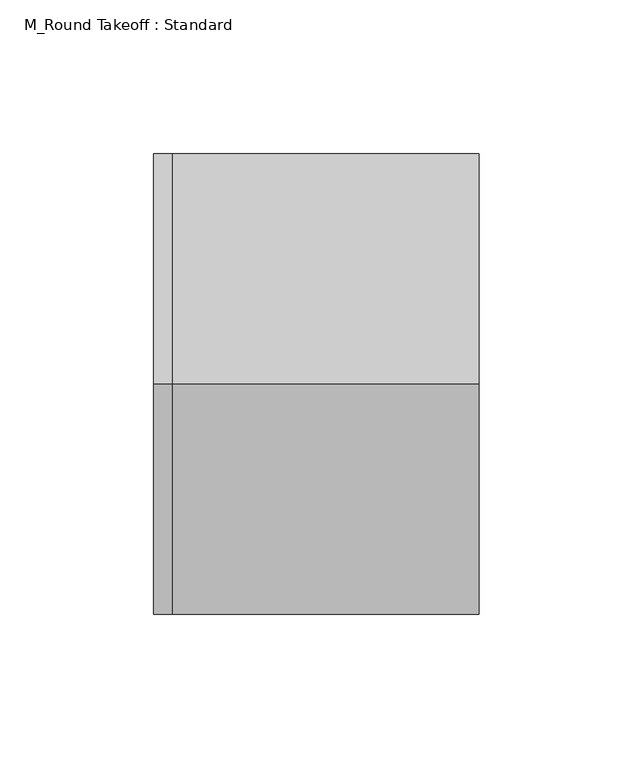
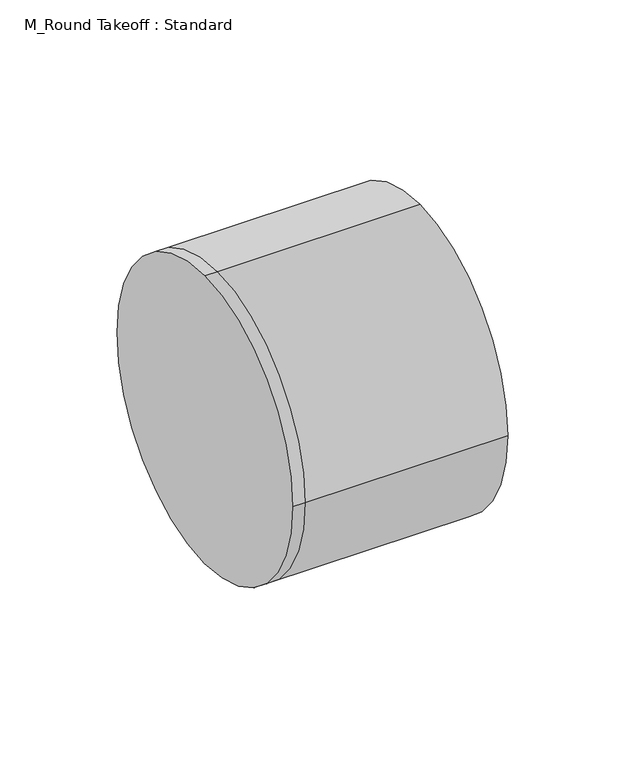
"""IFC4 building model written with IfcOpenShell, lengths in millimetres: duct fitting geometry, M_Round Takeoff : Standard."""

import ifcopenshell
import ifcopenshell.guid

model = None  # the IFC model being written
_history = None  # IfcOwnerHistory: only IFC2X3 demands one
_inside = {}  # id of a spatial element -> (the spatial element, [elements in it])
_under = {}  # id of a project, library or spatial element -> (it, [spatial elements below it])
_declared = {}  # id of a project -> (the project, [libraries it declares])
_typed = {}  # id of a type object -> (the type object, [elements of that type])
_made_of = {}  # id of a material, layer set ... -> (it, [elements and type objects made of it])


def new_model(schema):
    """Start an empty IFC model of exactly this schema.

    Asked for "IFC4X3", IfcOpenShell would pick the latest addendum, in which some entities
    have other attributes; the version numbers below select the first issue.
    IFC2X3 requires an IfcOwnerHistory on every rooted entity: one is made here for all.
    """
    global model, _history
    if schema == "IFC4X3":
        model = ifcopenshell.file(schema_version=(4, 3, 0, 0))
    else:
        model = ifcopenshell.file(schema=schema)
    _inside.clear()
    _under.clear()
    _declared.clear()
    _typed.clear()
    _made_of.clear()
    _history = None
    if model.schema == "IFC2X3":
        org = make("IfcOrganization", Name="unknown")
        user = make(
            "IfcPersonAndOrganization",
            ThePerson=make("IfcPerson", FamilyName="unknown"),
            TheOrganization=org,
        )
        app = make(
            "IfcApplication",
            ApplicationDeveloper=org,
            Version="unknown",
            ApplicationFullName="unknown",
            ApplicationIdentifier="unknown",
        )
        _history = make(
            "IfcOwnerHistory",
            OwningUser=user,
            OwningApplication=app,
            ChangeAction="ADDED",
            CreationDate=0,
        )
    return model


def make(cls, **values):
    """One entity of the class cls with the attributes given. An attribute that is None is left unset."""
    return model.create_entity(
        cls, **{name: value for name, value in values.items() if value is not None}
    )


def rooted(cls, **values):
    """An entity with a GlobalId (a new one), such as an element, a storey or a relation."""
    return make(cls, GlobalId=ifcopenshell.guid.new(), OwnerHistory=_history, **values)


def si_unit(unit_type, name, prefix=None):
    """IfcSIUnit, for example si_unit("LENGTHUNIT", "METRE", prefix="MILLI")."""
    return make("IfcSIUnit", UnitType=unit_type, Prefix=prefix, Name=name)


def assignment(units):
    """IfcUnitAssignment: the units of a project."""
    return None if units is None else make("IfcUnitAssignment", Units=units)


def point(xyz):
    """IfcCartesianPoint."""
    return None if xyz is None else make("IfcCartesianPoint", Coordinates=xyz)


def direction(xyz):
    """IfcDirection."""
    return None if xyz is None else make("IfcDirection", DirectionRatios=xyz)


def frame(location, z_axis=None, x_axis=None):
    """IfcAxis2Placement3D, a coordinate frame: its origin and axes. An axis left out is left unset."""
    return make(
        "IfcAxis2Placement3D",
        Location=point(location),
        Axis=direction(z_axis),
        RefDirection=direction(x_axis),
    )


def origin():
    """The frame at (0, 0, 0) with its axes left unset."""
    return frame((0.0, 0.0, 0.0))


def place(relative_to, where):
    """IfcLocalPlacement: puts the frame where relative to a parent placement (None: the world)."""
    return make(
        "IfcLocalPlacement", PlacementRelTo=relative_to, RelativePlacement=where
    )


def context(
    kind, dimensions, precision=None, world=None, true_north=None, identifier=None
):
    """IfcGeometricRepresentationContext, for example the 3D "Model" context."""
    return make(
        "IfcGeometricRepresentationContext",
        ContextIdentifier=identifier,
        ContextType=kind,
        CoordinateSpaceDimension=dimensions,
        Precision=precision,
        WorldCoordinateSystem=world,
        TrueNorth=true_north,
    )


def project(units=None, contexts=None):
    """IfcProject with its units and contexts."""
    return rooted(
        "IfcProject",
        Name="project",
        RepresentationContexts=contexts,
        UnitsInContext=assignment(units),
    )


def spatial(cls, under=None, at=None, **own):
    """A site, building, storey or space (cls), placed at a placement, below another one or the project."""
    s = rooted(cls, ObjectPlacement=at, **own)
    if under is not None:
        _under.setdefault(under.id(), (under, []))[1].append(s)
    return s


def circle_curve(where, radius):
    """IfcCircle in the frame where."""
    return make("IfcCircle", Position=where, Radius=radius)


def shape(context_of_items, identifier, shape_type, items):
    """IfcShapeRepresentation: the items that make up one representation, for example the "Body"."""
    return make(
        "IfcShapeRepresentation",
        ContextOfItems=context_of_items,
        RepresentationIdentifier=identifier,
        RepresentationType=shape_type,
        Items=items,
    )


def source(mapping_origin, context_of_items, identifier, shape_type, items):
    """IfcRepresentationMap: a shape defined once, which mapped items show again and again."""
    return make(
        "IfcRepresentationMap",
        MappingOrigin=mapping_origin,
        MappedRepresentation=shape(context_of_items, identifier, shape_type, items),
    )


def transform(
    local_origin,
    x_axis=None,
    y_axis=None,
    z_axis=None,
    scale=None,
    scale2=None,
    scale3=None,
    uniform=True,
):
    """IfcCartesianTransformationOperator3D, or its non-uniform kind. x_axis, y_axis, z_axis: its Axis1, 2, 3."""
    if uniform:
        return make(
            "IfcCartesianTransformationOperator3D",
            Axis1=direction(x_axis),
            Axis2=direction(y_axis),
            LocalOrigin=point(local_origin),
            Scale=scale,
            Axis3=direction(z_axis),
        )
    return make(
        "IfcCartesianTransformationOperator3DnonUniform",
        Axis1=direction(x_axis),
        Axis2=direction(y_axis),
        LocalOrigin=point(local_origin),
        Scale=scale,
        Axis3=direction(z_axis),
        Scale2=scale2,
        Scale3=scale3,
    )


def mapped(mapping_source, mapping_target):
    """IfcMappedItem: shows the shape of a source again, moved by a transform."""
    return make(
        "IfcMappedItem", MappingSource=mapping_source, MappingTarget=mapping_target
    )


def made_of(thing, what):
    """Note that an element or type object is made of a material, layer set ...; save() writes the relation."""
    if what is not None:
        _made_of.setdefault(what.id(), (what, []))[1].append(thing)
    return thing


def element(
    cls,
    number,
    at=None,
    inside=None,
    cuts=None,
    type_object=None,
    material=None,
    context=None,
    identifier="Body",
    shape_type=None,
    held_by="IfcProductDefinitionShape",
    body=None,
    shapes=None,
    **own,
):
    """One element of the class cls, such as IfcWall. Its Tag is "e" and its number.

    at: its placement. inside: the storey or other place that contains it. cuts: it is an
    opening in that element (IfcRelVoidsElement). A single representation is given by context,
    identifier, shape_type and body (its items); several are given by shapes. held_by: the class
    of the entity that holds the representations. save() writes the other relations.
    """
    e = rooted(cls, Tag="e%d" % number, ObjectPlacement=at, **own)
    if body is not None:
        shapes = [shape(context, identifier, shape_type, body)]
    if shapes is not None:
        e.Representation = make(held_by, Representations=shapes)
    if inside is not None:
        _inside.setdefault(inside.id(), (inside, []))[1].append(e)
    if cuts is not None:
        rooted(
            "IfcRelVoidsElement", RelatingBuildingElement=cuts, RelatedOpeningElement=e
        )
    if type_object is not None:
        _typed.setdefault(type_object.id(), (type_object, []))[1].append(e)
    return made_of(e, material)


def aggregate(whole, parts):
    """IfcRelAggregates: a whole, such as a stair, and the parts it consists of."""
    return rooted("IfcRelAggregates", RelatingObject=whole, RelatedObjects=parts)


def save(model, path):
    """Write the relations noted so far, then the file.

    IfcRelAggregates (storeys below a building ...), IfcRelContainedInSpatialStructure (elements
    in a storey), IfcRelDefinesByType, IfcRelAssociatesMaterial and IfcRelDeclares: one each for
    every whole, place, type object, material and project.
    """
    for whole, parts in _under.values():
        aggregate(whole, parts)
    for where, things in _inside.values():
        rooted(
            "IfcRelContainedInSpatialStructure",
            RelatedElements=things,
            RelatingStructure=where,
        )
    for kind, things in _typed.values():
        rooted("IfcRelDefinesByType", RelatedObjects=things, RelatingType=kind)
    for what, things in _made_of.values():
        rooted("IfcRelAssociatesMaterial", RelatedObjects=things, RelatingMaterial=what)
    for by, libraries in _declared.values():
        rooted("IfcRelDeclares", RelatingContext=by, RelatedDefinitions=libraries)
    model.write(path)


def plane_surface(at):
    """IfcPlane: the flat surface through the origin of the frame at, square to its z axis."""
    return make("IfcPlane", Position=at)


def cylinder_surface(at, radius):
    """IfcCylindricalSurface: all points at the distance radius from the z axis of the frame at."""
    return make("IfcCylindricalSurface", Position=at, Radius=radius)


def advanced_brep(points, edges, surfaces, faces):
    """IfcAdvancedBrep: a solid bounded by faces that lie on surfaces and meet in shared edges.

    An edge is (start, end): straight between two places in points (the first is 0);
    or (start, end, curve); or (start, end, curve, False) where it runs against its curve.
    A face is (place in surfaces, loops), or (place, loops, False) where it looks against
    its surface's normal. A loop lists edges by number (the first is 1), with a minus sign
    where the edge is run from its end to its start. The first loop is the outer one.
    """
    corners = [point(p) for p in points]
    vertices = [make("IfcVertexPoint", VertexGeometry=c) for c in corners]
    made = []
    for start, end, *more in edges:
        made.append(
            make(
                "IfcEdgeCurve",
                EdgeStart=vertices[start],
                EdgeEnd=vertices[end],
                EdgeGeometry=more[0] if more else make("IfcPolyline", Points=[corners[start], corners[end]]),
                SameSense=more[1] if len(more) > 1 else True,
            )
        )
    hull = []
    for where, loops, *sense in faces:
        bounds = []
        for j, loop in enumerate(loops):
            ring = [make("IfcOrientedEdge", EdgeElement=made[abs(k) - 1], Orientation=k > 0) for k in loop]
            bounds.append(
                make(
                    "IfcFaceOuterBound" if j == 0 else "IfcFaceBound",
                    Bound=make("IfcEdgeLoop", EdgeList=ring),
                    Orientation=True,
                )
            )
        hull.append(make("IfcAdvancedFace", Bounds=bounds, FaceSurface=surfaces[where], SameSense=sense[0] if sense else True))
    return make("IfcAdvancedBrep", Outer=make("IfcClosedShell", CfsFaces=hull))


def m_round_takeoff_standard_b6d2ed4a(model_context):
    return source(origin(), model_context, "Body", "AdvancedBrep", [
        advanced_brep(
        [(-6.0976542, 0.0, 75.0), (-6.0976542, 75.0, 0.0), (-6.0976542, 0.0, -75.0), (-6.0976542, -75.0, 0.0), (0.0, 0.0, 75.0), (0.0, 75.0, 0.0), (0.0, 0.0, -75.0), (0.0, -75.0, 0.0), (100.0016542, 0.0, 75.0), (100.0016542, -75.0, 0.0), (100.0016542, 0.0, -75.0), (100.0016542, 75.0, 0.0)],
        [
            (0, 1, circle_curve(frame((-6.0976542, 0.0, 0.0), z_axis=(-1.0, 0.0, 0.0), x_axis=(0.0, 1.0, 0.0)), 75.0)),
            (1, 2, circle_curve(frame((-6.0976542, 0.0, 0.0), z_axis=(-1.0, 0.0, 0.0), x_axis=(0.0, 1.0, 0.0)), 75.0)),
            (2, 3, circle_curve(frame((-6.0976542, 0.0, 0.0), z_axis=(-1.0, 0.0, 0.0), x_axis=(0.0, 1.0, 0.0)), 75.0)),
            (3, 0, circle_curve(frame((-6.0976542, 0.0, 0.0), z_axis=(-1.0, 0.0, 0.0), x_axis=(0.0, 1.0, 0.0)), 75.0)),
            (0, 4),
            (4, 5, circle_curve(frame((0.0, 0.0, 0.0), z_axis=(-1.0, 0.0, 0.0), x_axis=(0.0, 1.0, 0.0)), 75.0)),
            (5, 1),
            (5, 6, circle_curve(frame((0.0, 0.0, 0.0), z_axis=(-1.0, 0.0, 0.0), x_axis=(0.0, 1.0, 0.0)), 75.0)),
            (6, 2),
            (6, 7, circle_curve(frame((0.0, 0.0, 0.0), z_axis=(-1.0, 0.0, 0.0), x_axis=(0.0, 1.0, 0.0)), 75.0)),
            (7, 3),
            (7, 4, circle_curve(frame((0.0, 0.0, 0.0), z_axis=(-1.0, 0.0, 0.0), x_axis=(0.0, 1.0, 0.0)), 75.0)),
            (8, 9, circle_curve(frame((100.0016542, 0.0, 0.0), z_axis=(1.0, 0.0, 0.0), x_axis=(0.0, 1.0, 0.0)), 75.0)),
            (9, 10, circle_curve(frame((100.0016542, 0.0, 0.0), z_axis=(1.0, 0.0, 0.0), x_axis=(0.0, 1.0, 0.0)), 75.0)),
            (10, 11, circle_curve(frame((100.0016542, 0.0, 0.0), z_axis=(1.0, 0.0, 0.0), x_axis=(0.0, 1.0, 0.0)), 75.0)),
            (11, 8, circle_curve(frame((100.0016542, 0.0, 0.0), z_axis=(1.0, 0.0, 0.0), x_axis=(0.0, 1.0, 0.0)), 75.0)),
            (11, 5),
            (4, 8),
            (10, 6),
            (9, 7),
        ],
        [
            plane_surface(frame((-6.0976542, 0.0, 0.0), z_axis=(-1.0, 0.0, 0.0), x_axis=(0.0, 0.0, 1.0))),
            cylinder_surface(frame((-6.0976542, 0.0, 0.0), z_axis=(-1.0, 0.0, 0.0), x_axis=(0.0, 1.0, 0.0)), 75.0),
            plane_surface(frame((100.0016542, 0.0, 0.0), z_axis=(1.0, 0.0, 0.0), x_axis=(0.0, 0.0, 1.0))),
            cylinder_surface(frame((0.0, 0.0, 0.0), z_axis=(-1.0, 0.0, 0.0), x_axis=(0.0, 1.0, 0.0)), 75.0),
        ],
        [
            (0, [[1, 2, 3, 4]]),
            (1, [[-1, 5, 6, 7]]),
            (1, [[-2, -7, 8, 9]]),
            (1, [[-3, -9, 10, 11]]),
            (1, [[-4, -11, 12, -5]]),
            (2, [[13, 14, 15, 16]]),
            (3, [[-16, 17, -6, 18]]),
            (3, [[-15, 19, -8, -17]]),
            (3, [[-14, 20, -10, -19]]),
            (3, [[-13, -18, -12, -20]]),
        ],
    ),
        advanced_brep(
        [(100.0016542, 0.0, 75.0), (100.0016542, -75.0, 0.0), (100.0016542, 0.0, -75.0), (100.0016542, 75.0, 0.0), (0.0, 75.0, 0.0), (0.0, 0.0, 75.0), (0.0, 0.0, -75.0), (0.0, -75.0, 0.0), (-6.0976542, 0.0, 75.0), (-6.0976542, 75.0, 0.0), (-6.0976542, 0.0, -75.0), (-6.0976542, -75.0, 0.0)],
        [
            (0, 1, circle_curve(frame((100.0016542, 0.0, 0.0), z_axis=(1.0, 0.0, 0.0), x_axis=(0.0, 1.0, 0.0)), 75.0)),
            (1, 2, circle_curve(frame((100.0016542, 0.0, 0.0), z_axis=(1.0, 0.0, 0.0), x_axis=(0.0, 1.0, 0.0)), 75.0)),
            (2, 3, circle_curve(frame((100.0016542, 0.0, 0.0), z_axis=(1.0, 0.0, 0.0), x_axis=(0.0, 1.0, 0.0)), 75.0)),
            (3, 0, circle_curve(frame((100.0016542, 0.0, 0.0), z_axis=(1.0, 0.0, 0.0), x_axis=(0.0, 1.0, 0.0)), 75.0)),
            (3, 4),
            (4, 5, circle_curve(frame((0.0, 0.0, 0.0), z_axis=(1.0, 0.0, 0.0), x_axis=(0.0, 1.0, 0.0)), 75.0)),
            (5, 0),
            (2, 6),
            (6, 4, circle_curve(frame((0.0, 0.0, 0.0), z_axis=(1.0, 0.0, 0.0), x_axis=(0.0, 1.0, 0.0)), 75.0)),
            (1, 7),
            (7, 6, circle_curve(frame((0.0, 0.0, 0.0), z_axis=(1.0, 0.0, 0.0), x_axis=(0.0, 1.0, 0.0)), 75.0)),
            (5, 7, circle_curve(frame((0.0, 0.0, 0.0), z_axis=(1.0, 0.0, 0.0), x_axis=(0.0, 1.0, 0.0)), 75.0)),
            (8, 9, circle_curve(frame((-6.0976542, 0.0, 0.0), z_axis=(-1.0, 0.0, 0.0), x_axis=(0.0, 1.0, 0.0)), 75.0)),
            (9, 10, circle_curve(frame((-6.0976542, 0.0, 0.0), z_axis=(-1.0, 0.0, 0.0), x_axis=(0.0, 1.0, 0.0)), 75.0)),
            (10, 11, circle_curve(frame((-6.0976542, 0.0, 0.0), z_axis=(-1.0, 0.0, 0.0), x_axis=(0.0, 1.0, 0.0)), 75.0)),
            (11, 8, circle_curve(frame((-6.0976542, 0.0, 0.0), z_axis=(-1.0, 0.0, 0.0), x_axis=(0.0, 1.0, 0.0)), 75.0)),
            (8, 5),
            (4, 9),
            (6, 10),
            (7, 11),
        ],
        [
            plane_surface(frame((100.0016542, 0.0, 0.0), z_axis=(1.0, 0.0, 0.0), x_axis=(0.0, 0.0, 1.0))),
            cylinder_surface(frame((0.0, 0.0, 0.0), z_axis=(-1.0, 0.0, 0.0), x_axis=(0.0, 1.0, 0.0)), 75.0),
            plane_surface(frame((-6.0976542, 0.0, 0.0), z_axis=(-1.0, 0.0, 0.0), x_axis=(0.0, 0.0, 1.0))),
            cylinder_surface(frame((-6.0976542, 0.0, 0.0), z_axis=(-1.0, 0.0, 0.0), x_axis=(0.0, 1.0, 0.0)), 75.0),
        ],
        [
            (0, [[1, 2, 3, 4]]),
            (1, [[-4, 5, 6, 7]]),
            (1, [[-3, 8, 9, -5]]),
            (1, [[-2, 10, 11, -8]]),
            (1, [[-1, -7, 12, -10]]),
            (2, [[13, 14, 15, 16]]),
            (3, [[-13, 17, -6, 18]]),
            (3, [[-14, -18, -9, 19]]),
            (3, [[-15, -19, -11, 20]]),
            (3, [[-16, -20, -12, -17]]),
        ],
    ),
        advanced_brep(
        [(-6.0976542, 0.0, 75.0), (-6.0976542, 75.0, 0.0), (-6.0976542, 0.0, -75.0), (-6.0976542, -75.0, 0.0), (0.0, 0.0, 75.0), (0.0, 75.0, 0.0), (0.0, 0.0, -75.0), (0.0, -75.0, 0.0), (100.0016542, 0.0, 75.0), (100.0016542, -75.0, 0.0), (100.0016542, 0.0, -75.0), (100.0016542, 75.0, 0.0)],
        [
            (0, 1, circle_curve(frame((-6.0976542, 0.0, 0.0), z_axis=(-1.0, 0.0, 0.0), x_axis=(0.0, 1.0, 0.0)), 75.0)),
            (1, 2, circle_curve(frame((-6.0976542, 0.0, 0.0), z_axis=(-1.0, 0.0, 0.0), x_axis=(0.0, 1.0, 0.0)), 75.0)),
            (2, 3, circle_curve(frame((-6.0976542, 0.0, 0.0), z_axis=(-1.0, 0.0, 0.0), x_axis=(0.0, 1.0, 0.0)), 75.0)),
            (3, 0, circle_curve(frame((-6.0976542, 0.0, 0.0), z_axis=(-1.0, 0.0, 0.0), x_axis=(0.0, 1.0, 0.0)), 75.0)),
            (0, 4),
            (4, 5, circle_curve(frame((0.0, 0.0, 0.0), z_axis=(-1.0, 0.0, 0.0), x_axis=(0.0, 1.0, 0.0)), 75.0)),
            (5, 1),
            (5, 6, circle_curve(frame((0.0, 0.0, 0.0), z_axis=(-1.0, 0.0, 0.0), x_axis=(0.0, 1.0, 0.0)), 75.0)),
            (6, 2),
            (6, 7, circle_curve(frame((0.0, 0.0, 0.0), z_axis=(-1.0, 0.0, 0.0), x_axis=(0.0, 1.0, 0.0)), 75.0)),
            (7, 3),
            (7, 4, circle_curve(frame((0.0, 0.0, 0.0), z_axis=(-1.0, 0.0, 0.0), x_axis=(0.0, 1.0, 0.0)), 75.0)),
            (8, 9, circle_curve(frame((100.0016542, 0.0, 0.0), z_axis=(1.0, 0.0, 0.0), x_axis=(0.0, 1.0, 0.0)), 75.0)),
            (9, 10, circle_curve(frame((100.0016542, 0.0, 0.0), z_axis=(1.0, 0.0, 0.0), x_axis=(0.0, 1.0, 0.0)), 75.0)),
            (10, 11, circle_curve(frame((100.0016542, 0.0, 0.0), z_axis=(1.0, 0.0, 0.0), x_axis=(0.0, 1.0, 0.0)), 75.0)),
            (11, 8, circle_curve(frame((100.0016542, 0.0, 0.0), z_axis=(1.0, 0.0, 0.0), x_axis=(0.0, 1.0, 0.0)), 75.0)),
            (11, 5),
            (4, 8),
            (10, 6),
            (9, 7),
        ],
        [
            plane_surface(frame((-6.0976542, 0.0, 0.0), z_axis=(-1.0, 0.0, 0.0), x_axis=(0.0, 0.0, 1.0))),
            cylinder_surface(frame((-6.0976542, 0.0, 0.0), z_axis=(-1.0, 0.0, 0.0), x_axis=(0.0, 1.0, 0.0)), 75.0),
            plane_surface(frame((100.0016542, 0.0, 0.0), z_axis=(1.0, 0.0, 0.0), x_axis=(0.0, 0.0, 1.0))),
            cylinder_surface(frame((0.0, 0.0, 0.0), z_axis=(-1.0, 0.0, 0.0), x_axis=(0.0, 1.0, 0.0)), 75.0),
        ],
        [
            (0, [[1, 2, 3, 4]]),
            (1, [[-1, 5, 6, 7]]),
            (1, [[-2, -7, 8, 9]]),
            (1, [[-3, -9, 10, 11]]),
            (1, [[-4, -11, 12, -5]]),
            (2, [[13, 14, 15, 16]]),
            (3, [[-16, 17, -6, 18]]),
            (3, [[-15, 19, -8, -17]]),
            (3, [[-14, 20, -10, -19]]),
            (3, [[-13, -18, -12, -20]]),
        ],
    ),
    ])


if __name__ == "__main__":
    model = new_model("IFC4")
    model_context = context("Model", 3, world=origin())
    ifc_project = project(units=[si_unit("LENGTHUNIT", "METRE", prefix="MILLI")], contexts=[model_context])
    site = spatial("IfcSite", under=ifc_project)
    building = spatial("IfcBuilding", under=site)
    placement = place(None, origin())
    m_round_takeoff_standard_shape = m_round_takeoff_standard_b6d2ed4a(model_context)
    element("IfcDuctFitting", 1, ObjectType="M_Round Takeoff : Standard", at=placement, inside=building, context=model_context, shape_type="MappedRepresentation", body=[
        mapped(m_round_takeoff_standard_shape, transform((0.0, 0.0, 0.0), x_axis=(1.0, 0.0, 0.0), y_axis=(0.0, 1.0, 0.0), z_axis=(0.0, 0.0, 1.0))),
    ])
    save(model, "model.ifc")
